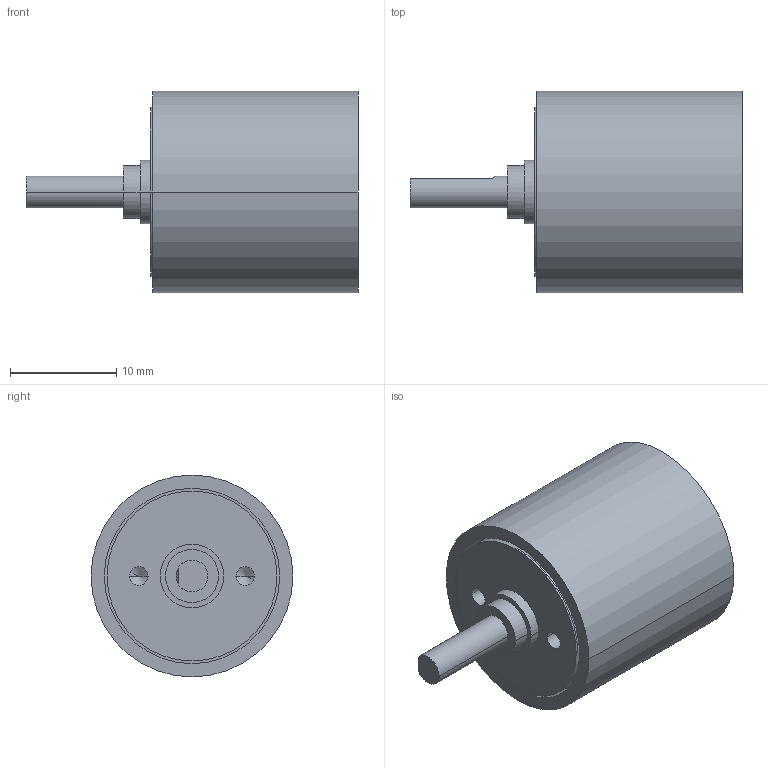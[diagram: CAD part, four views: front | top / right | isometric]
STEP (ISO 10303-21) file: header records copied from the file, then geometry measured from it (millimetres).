
FILE_DESCRIPTION((''),'2;1');
FILE_NAME('1682081','2016-10-04T',('mmagvisi'),(''),'CREO PARAMETRIC BY PTC INC, 2016050','CREO PARAMETRIC BY PTC INC, 2016050','');
FILE_SCHEMA(('CONFIG_CONTROL_DESIGN'));
Length unit declared in the file: millimetre
Products named in the file (1): 1682081
Bounding box: 31.25 x 19 x 19 mm (x, y, z)
Volume: 4973.1 mm3; surface area: 2239 mm2
Topology: 1 solids, 1 shells, 35 faces, 78 edges, 50 vertices
Faces by surface type: cylinder 20, plane 11, cone 4
Entity records: 1071 total; most frequent: DIRECTION 184, CARTESIAN_POINT 164, ORIENTED_EDGE 148, AXIS2_PLACEMENT_3D 77, EDGE_CURVE 74, COLOUR_RGB 58, VERTEX_POINT 50, EDGE_LOOP 44
